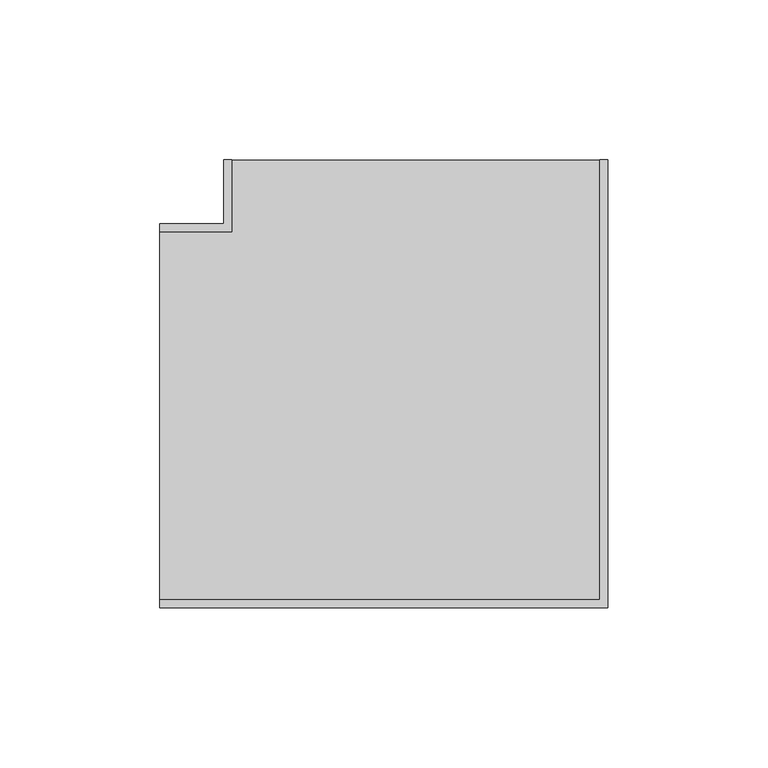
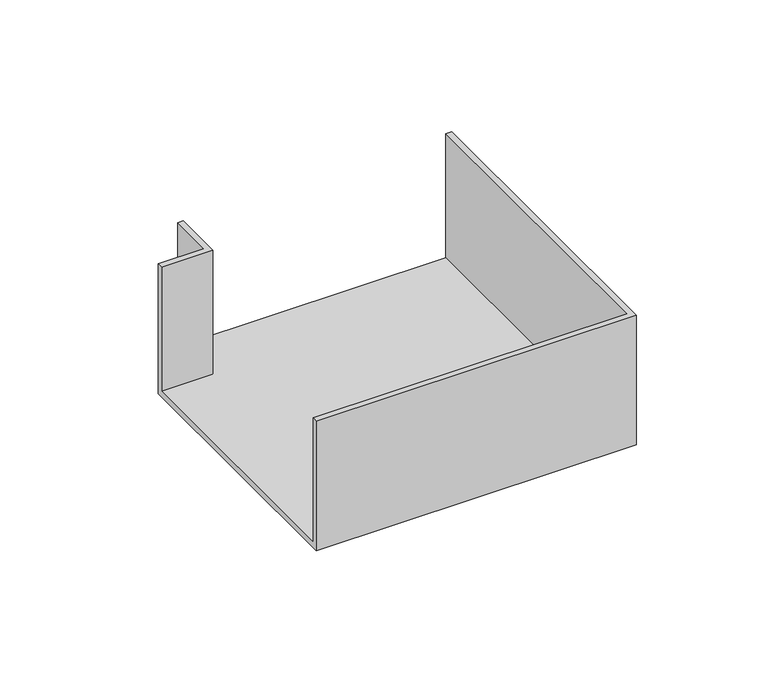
"""IFC4 building model written with IfcOpenShell, lengths in millimetres: cable carrier fitting geometry, КНС_УголПлоский NPAN_ILC_DKC : Угол плоский NPAN_DKC."""

from ifc_helpers import new_model, si_unit, origin, place, context, project, spatial, faceted_brep, source, transform, mapped, element, save


def cable_carrier_fitting_aaff8641(model_context):
    return source(origin(), model_context, "Body", "Brep", [
        faceted_brep([(-80.0, 60.0, -30.0), (-80.0, -60.0, -30.0), (-80.0, -60.0, 30.0), (-80.0, -57.5, 30.0), (-80.0, -57.5, -27.5), (-80.0, 57.5, -27.5), (-80.0, 57.5, 30.0), (-80.0, 60.0, 30.0), (-60.0, 60.0, -30.0), (-60.0, 80.0, -30.0), (60.0, 80.0, -30.0), (60.0, -60.0, -30.0), (60.0, -60.0, 30.0), (60.0, 80.0, 30.0), (57.5, 80.0, 30.0), (57.5, -57.5, 30.0), (57.5, -57.5, -27.5), (57.5, 80.0, -27.5), (-57.5, 80.0, -27.5), (-57.5, 57.5, -27.5), (-57.5, 57.5, 30.0), (-57.5, 80.0, 30.0), (-60.0, 80.0, 30.0), (-60.0, 60.0, 30.0)], [[[0, 1, 2, 3, 4, 5, 6, 7]], [[1, 0, 8, 9, 10, 11]], [[2, 1, 11, 12]], [[3, 2, 12, 13, 14, 15]], [[4, 3, 15, 16]], [[5, 4, 16, 17, 18, 19]], [[6, 5, 19, 20]], [[7, 6, 20, 21, 22, 23]], [[0, 7, 23, 8]], [[9, 22, 21, 18, 17, 14, 13, 10]], [[12, 11, 10, 13]], [[16, 15, 14, 17]], [[20, 19, 18, 21]], [[8, 23, 22, 9]]]),
    ])


if __name__ == "__main__":
    model = new_model("IFC4")
    model_context = context("Model", 3, world=origin())
    ifc_project = project(units=[si_unit("LENGTHUNIT", "METRE", prefix="MILLI")], contexts=[model_context])
    site = spatial("IfcSite", under=ifc_project)
    building = spatial("IfcBuilding", under=site)
    placement = place(None, origin())
    cable_carrier_fitting_shape = cable_carrier_fitting_aaff8641(model_context)
    element("IfcCableCarrierFitting", 1, ObjectType="КНС_УголПлоский NPAN_ILC_DKC : Угол плоский NPAN_DKC", at=placement, inside=building, context=model_context, shape_type="MappedRepresentation", body=[
        mapped(cable_carrier_fitting_shape, transform((0.0, 0.0, 0.0), x_axis=(1.0, 0.0, 0.0), y_axis=(0.0, 1.0, 0.0), z_axis=(0.0, 0.0, 1.0))),
    ])
    save(model, "model.ifc")
